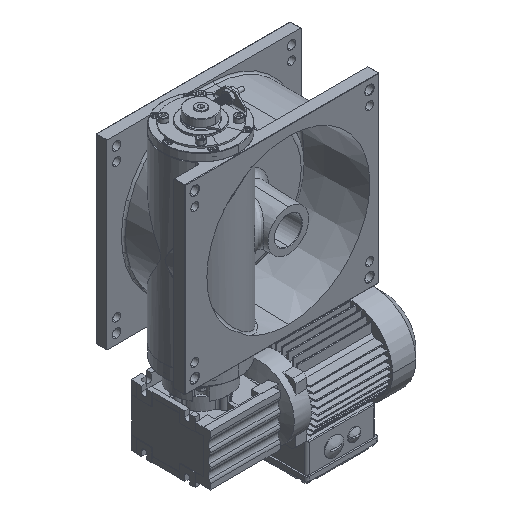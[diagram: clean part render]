
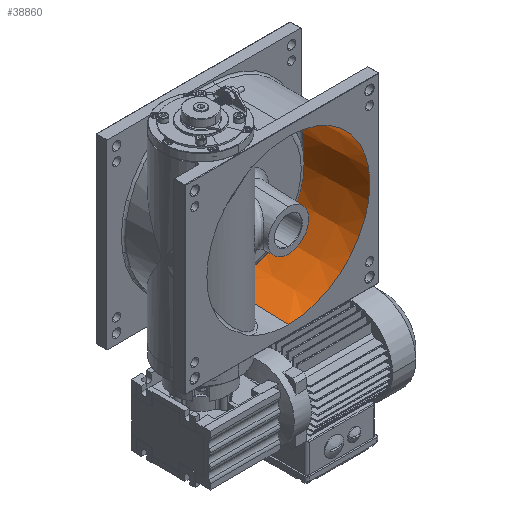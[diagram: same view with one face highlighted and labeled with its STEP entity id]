
A CAD part, isometric view. The second image highlights one B-rep face of the part: STEP entity #38860.
In plain terms, the highlighted conical face has half-angle 2 degrees and reference radius 104.105 mm.
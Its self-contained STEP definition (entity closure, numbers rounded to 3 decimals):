
#630 = LINE ( 'NONE', #40107, #19498 ) ;
#1044 = VERTEX_POINT ( 'NONE', #52748 ) ;
#1625 = DIRECTION ( 'NONE',  ( 0., 0., -1. ) ) ;
#5602 = AXIS2_PLACEMENT_3D ( 'NONE', #40728, #77766, #65932 ) ;
#6493 = CARTESIAN_POINT ( 'NONE',  ( 0., 0., 104.105 ) ) ;
#7766 = DIRECTION ( 'NONE',  ( 0., 1., 0. ) ) ;
#9582 = FACE_OUTER_BOUND ( 'NONE', #74297, .T. ) ;
#11639 = VERTEX_POINT ( 'NONE', #42753 ) ;
#19498 = VECTOR ( 'NONE', #20360, 1000. ) ;
#19932 = CARTESIAN_POINT ( 'NONE',  ( 0., 3., 104. ) ) ;
#20360 = DIRECTION ( 'NONE',  ( 0., -0.999, -0.035 ) ) ;
#22625 = DIRECTION ( 'NONE',  ( 0., -1., 0. ) ) ;
#23003 = VERTEX_POINT ( 'NONE', #19932 ) ;
#27326 = CARTESIAN_POINT ( 'NONE',  ( 0., 84.705, 101.147 ) ) ;
#33159 = ORIENTED_EDGE ( 'NONE', *, *, #56079, .T. ) ;
#36043 = LINE ( 'NONE', #6493, #56266 ) ;
#36828 = AXIS2_PLACEMENT_3D ( 'NONE', #79846, #22625, #1625 ) ;
#38212 = CONICAL_SURFACE ( 'NONE', #36828, 104.105, 0.035 ) ;
#38860 = ADVANCED_FACE ( 'NONE', ( #9582 ), #38212, .F. ) ;
#40107 = CARTESIAN_POINT ( 'NONE',  ( 0., 0., -104.105 ) ) ;
#40728 = CARTESIAN_POINT ( 'NONE',  ( 0., 84.705, 0. ) ) ;
#42753 = CARTESIAN_POINT ( 'NONE',  ( 0., 3., -104. ) ) ;
#43671 = CIRCLE ( 'NONE', #79993, 104. ) ;
#47568 = EDGE_CURVE ( 'NONE', #23003, #11639, #43671, .T. ) ;
#50198 = ORIENTED_EDGE ( 'NONE', *, *, #76836, .T. ) ;
#52343 = CARTESIAN_POINT ( 'NONE',  ( 0., 3., 0. ) ) ;
#52748 = CARTESIAN_POINT ( 'NONE',  ( 0., 84.705, -101.147 ) ) ;
#56079 = EDGE_CURVE ( 'NONE', #58608, #1044, #70047, .T. ) ;
#56266 = VECTOR ( 'NONE', #74754, 1000. ) ;
#58608 = VERTEX_POINT ( 'NONE', #27326 ) ;
#64134 = ORIENTED_EDGE ( 'NONE', *, *, #74280, .F. ) ;
#65932 = DIRECTION ( 'NONE',  ( 0., 0., 1. ) ) ;
#67361 = ORIENTED_EDGE ( 'NONE', *, *, #47568, .F. ) ;
#70047 = CIRCLE ( 'NONE', #5602, 101.147 ) ;
#74280 = EDGE_CURVE ( 'NONE', #58608, #23003, #36043, .T. ) ;
#74297 = EDGE_LOOP ( 'NONE', ( #64134, #33159, #50198, #67361 ) ) ;
#74754 = DIRECTION ( 'NONE',  ( 0., -0.999, 0.035 ) ) ;
#76836 = EDGE_CURVE ( 'NONE', #1044, #11639, #630, .T. ) ;
#77766 = DIRECTION ( 'NONE',  ( 0., 1., 0. ) ) ;
#77983 = DIRECTION ( 'NONE',  ( 0., 0., -1. ) ) ;
#79846 = CARTESIAN_POINT ( 'NONE',  ( 0., 0., 0. ) ) ;
#79993 = AXIS2_PLACEMENT_3D ( 'NONE', #52343, #7766, #77983 ) ;
